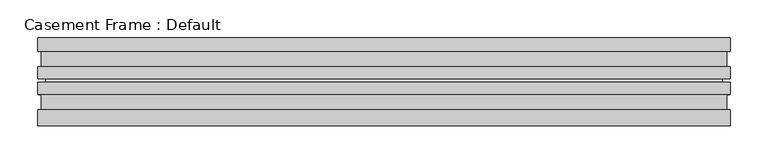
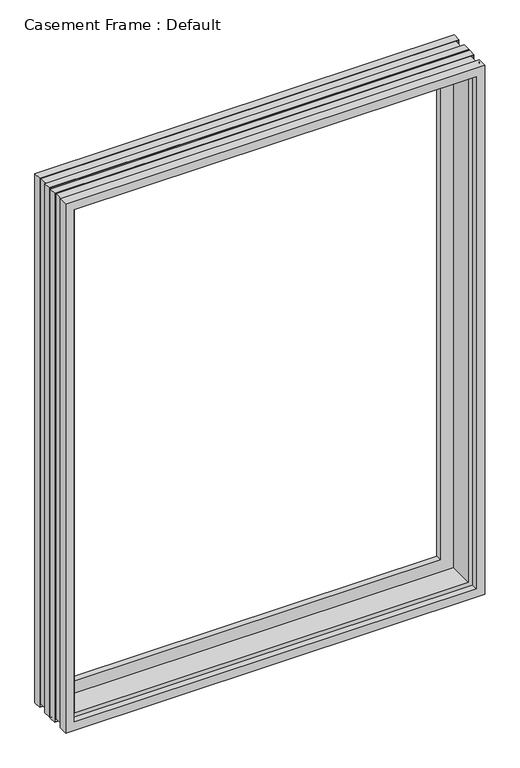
"""IFC4 building model written with IfcOpenShell, lengths in millimetres: proxy geometry, Casement Frame : Default."""

from ifc_helpers import new_model, si_unit, frame, origin, place, context, project, spatial, polyline, ellipse_curve, source, transform, mapped, element, save
from ifc_brep_helpers import plane_surface, revolved_surface, advanced_brep


def casement_frame_default_019ad32e(model_context):
    return source(origin(), model_context, "Body", "AdvancedBrep", [
        advanced_brep(
        [(428.625, 82.55, 790.575), (428.625, 115.8875, 790.575), (-428.625, 115.8875, 790.575), (-428.625, 82.55, 790.575), (400.05, 69.85, 819.15), (400.05, 82.55, 819.15), (-400.05, 82.55, 819.15), (-400.05, 69.85, 819.15), (428.625, 14.2875, 790.575), (428.625, 69.85, 790.575), (-428.625, 69.85, 790.575), (-428.625, 14.2875, 790.575), (-428.625, 115.8875, 1952.625), (-428.625, 82.55, 1952.625), (-400.05, 82.55, 1924.05), (-400.05, 69.85, 1924.05), (-428.625, 69.85, 1952.625), (-428.625, 14.2875, 1952.625), (428.625, 115.8875, 1952.625), (428.625, 82.55, 1952.625), (400.05, 82.55, 1924.05), (400.05, 69.85, 1924.05), (428.625, 69.85, 1952.625), (428.625, 14.2875, 1952.625), (457.2, 0.0, 762.0), (457.2, 0.0, 1981.2), (-457.2, 0.0, 1981.2), (-457.2, 0.0, 762.0), (-438.15, 0.0, 781.05), (-438.15, 0.0, 1962.15), (438.15, 0.0, 1962.15), (438.15, 0.0, 781.05), (-457.2, 115.8875, 762.0), (-457.2, 115.8875, 1981.2), (457.2, 115.8875, 1981.2), (457.2, 115.8875, 762.0), (438.15, 14.2875, 781.05), (-438.15, 14.2875, 781.05), (-438.15, 14.2875, 1962.15), (438.15, 14.2875, 1962.15), (457.2, 20.6375, 762.0), (-457.2, 20.6375, 762.0), (454.421875, 17.4625, 764.778125), (456.009375, 20.6375, 763.190625), (-456.009375, 20.6375, 763.190625), (-454.421875, 17.4625, 764.778125), (452.4375, 44.45, 766.7625), (452.4375, 17.4625, 766.7625), (-452.4375, 17.4625, 766.7625), (-452.4375, 44.45, 766.7625), (456.009375, 41.275, 763.190625), (454.421875, 44.45, 764.778125), (-454.421875, 44.45, 764.778125), (-456.009375, 41.275, 763.190625), (457.2, 57.15, 762.0), (457.2, 41.275, 762.0), (-457.2, 41.275, 762.0), (-457.2, 57.15, 762.0), (455.6125, 61.9125, 763.5875), (455.6125, 57.15, 763.5875), (-455.6125, 57.15, 763.5875), (-455.6125, 61.9125, 763.5875), (457.2, 77.7875, 762.0), (457.2, 61.9125, 762.0), (-457.2, 61.9125, 762.0), (-457.2, 77.7875, 762.0), (454.421875, 74.6125, 764.778125), (456.009375, 77.7875, 763.190625), (-456.009375, 77.7875, 763.190625), (-454.421875, 74.6125, 764.778125), (452.4375, 101.6, 766.7625), (452.4375, 74.6125, 766.7625), (-452.4375, 74.6125, 766.7625), (-452.4375, 101.6, 766.7625), (456.009375, 98.425, 763.190625), (454.421875, 101.6, 764.778125), (-454.421875, 101.6, 764.778125), (-456.009375, 98.425, 763.190625), (457.2, 98.425, 762.0), (-457.2, 98.425, 762.0), (-457.2, 20.6375, 1981.2), (-456.009375, 20.6375, 1980.009375), (-454.421875, 17.4625, 1978.421875), (-452.4375, 17.4625, 1976.4375), (-452.4375, 44.45, 1976.4375), (-454.421875, 44.45, 1978.421875), (-456.009375, 41.275, 1980.009375), (-457.2, 41.275, 1981.2), (-457.2, 57.15, 1981.2), (-455.6125, 57.15, 1979.6125), (-455.6125, 61.9125, 1979.6125), (-457.2, 61.9125, 1981.2), (-457.2, 77.7875, 1981.2), (-456.009375, 77.7875, 1980.009375), (-454.421875, 74.6125, 1978.421875), (-452.4375, 74.6125, 1976.4375), (-452.4375, 101.6, 1976.4375), (-454.421875, 101.6, 1978.421875), (-456.009375, 98.425, 1980.009375), (-457.2, 98.425, 1981.2), (457.2, 20.6375, 1981.2), (456.009375, 20.6375, 1980.009375), (454.421875, 17.4625, 1978.421875), (452.4375, 17.4625, 1976.4375), (452.4375, 44.45, 1976.4375), (454.421875, 44.45, 1978.421875), (456.009375, 41.275, 1980.009375), (457.2, 41.275, 1981.2), (457.2, 57.15, 1981.2), (455.6125, 57.15, 1979.6125), (455.6125, 61.9125, 1979.6125), (457.2, 61.9125, 1981.2), (457.2, 77.7875, 1981.2), (456.009375, 77.7875, 1980.009375), (454.421875, 74.6125, 1978.421875), (452.4375, 74.6125, 1976.4375), (452.4375, 101.6, 1976.4375), (454.421875, 101.6, 1978.421875), (456.009375, 98.425, 1980.009375), (457.2, 98.425, 1981.2)],
        [
            (0, 1),
            (1, 2),
            (2, 3),
            (3, 0),
            (4, 5),
            (5, 6),
            (6, 7),
            (7, 4),
            (8, 9),
            (9, 10),
            (10, 11),
            (11, 8),
            (2, 12),
            (12, 13),
            (13, 3),
            (6, 14),
            (14, 15),
            (15, 7),
            (10, 16),
            (16, 17),
            (17, 11),
            (12, 18),
            (18, 19),
            (19, 13),
            (14, 20),
            (20, 21),
            (21, 15),
            (16, 22),
            (22, 23),
            (23, 17),
            (18, 1),
            (0, 19),
            (5, 20),
            (4, 21),
            (9, 22),
            (8, 23),
            (24, 25),
            (25, 26),
            (26, 27),
            (27, 24),
            (28, 29),
            (29, 30),
            (30, 31),
            (31, 28),
            (32, 33),
            (33, 34),
            (34, 35),
            (35, 32),
            (31, 36),
            (36, 37),
            (37, 28),
            (37, 38),
            (38, 29),
            (38, 39),
            (39, 30),
            (36, 39),
            (40, 24),
            (27, 41),
            (41, 40),
            (42, 43),
            (43, 44),
            (44, 45),
            (45, 42),
            (46, 47),
            (47, 48),
            (48, 49),
            (49, 46),
            (50, 51),
            (51, 52),
            (52, 53),
            (53, 50),
            (54, 55),
            (55, 56),
            (56, 57),
            (57, 54),
            (58, 59, ellipse_curve(frame((451.488054, 59.53125, 767.711946), z_axis=(0.7071067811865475, 0.0, 0.7071067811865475), x_axis=(-0.7071067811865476, 0.0, 0.7071067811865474)), 6.7351921, 4.7625)),
            (59, 60),
            (60, 61, ellipse_curve(frame((-451.488054, 59.53125, 767.711946), z_axis=(-0.7071067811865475, 0.0, 0.7071067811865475), x_axis=(-0.7071067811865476, 0.0, -0.7071067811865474)), 6.7351921, 4.7625)),
            (61, 58),
            (62, 63),
            (63, 64),
            (64, 65),
            (65, 62),
            (66, 67),
            (67, 68),
            (68, 69),
            (69, 66),
            (70, 71),
            (71, 72),
            (72, 73),
            (73, 70),
            (74, 75),
            (75, 76),
            (76, 77),
            (77, 74),
            (35, 78),
            (78, 79),
            (79, 32),
            (26, 80),
            (80, 41),
            (44, 81),
            (81, 82),
            (82, 45),
            (48, 83),
            (83, 84),
            (84, 49),
            (52, 85),
            (85, 86),
            (86, 53),
            (56, 87),
            (87, 88),
            (88, 57),
            (60, 89),
            (89, 90, ellipse_curve(frame((-451.488054, 59.53125, 1975.488054), z_axis=(0.7071067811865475, 0.0, 0.7071067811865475), x_axis=(-0.7071067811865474, 0.0, 0.7071067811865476)), 6.7351921, 4.7625)),
            (90, 61),
            (64, 91),
            (91, 92),
            (92, 65),
            (68, 93),
            (93, 94),
            (94, 69),
            (72, 95),
            (95, 96),
            (96, 73),
            (76, 97),
            (97, 98),
            (98, 77),
            (79, 99),
            (99, 33),
            (25, 100),
            (100, 80),
            (81, 101),
            (101, 102),
            (102, 82),
            (83, 103),
            (103, 104),
            (104, 84),
            (85, 105),
            (105, 106),
            (106, 86),
            (87, 107),
            (107, 108),
            (108, 88),
            (89, 109),
            (109, 110, ellipse_curve(frame((451.488054, 59.53125, 1975.488054), z_axis=(0.7071067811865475, 0.0, -0.7071067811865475), x_axis=(0.7071067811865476, 0.0, 0.7071067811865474)), 6.7351921, 4.7625)),
            (110, 90),
            (91, 111),
            (111, 112),
            (112, 92),
            (93, 113),
            (113, 114),
            (114, 94),
            (95, 115),
            (115, 116),
            (116, 96),
            (97, 117),
            (117, 118),
            (118, 98),
            (99, 119),
            (119, 34),
            (40, 100),
            (43, 101),
            (42, 102),
            (47, 103),
            (46, 104),
            (51, 105),
            (50, 106),
            (55, 107),
            (54, 108),
            (59, 109),
            (58, 110),
            (63, 111),
            (62, 112),
            (67, 113),
            (66, 114),
            (71, 115),
            (70, 116),
            (75, 117),
            (74, 118),
            (78, 119),
        ],
        [
            plane_surface(frame((428.625, 115.8875, 790.575), z_axis=(0.0, 0.0, 1.0), x_axis=(-1.0, 0.0, 0.0))),
            plane_surface(frame((400.05, 82.55, 819.15), z_axis=(0.0, 0.0, 1.0), x_axis=(-1.0, 0.0, 0.0))),
            plane_surface(frame((428.625, 69.85, 790.575), z_axis=(0.0, 0.0, 1.0), x_axis=(-1.0, 0.0, 0.0))),
            plane_surface(frame((-428.625, 115.8875, 790.575), z_axis=(1.0, 0.0, 0.0), x_axis=(0.0, 0.0, 1.0))),
            plane_surface(frame((-400.05, 82.55, 819.15), z_axis=(1.0, 0.0, 0.0), x_axis=(0.0, 0.0, 1.0))),
            plane_surface(frame((-428.625, 69.85, 790.575), z_axis=(1.0, 0.0, 0.0), x_axis=(0.0, 0.0, 1.0))),
            plane_surface(frame((-428.625, 115.8875, 1952.625), z_axis=(0.0, 0.0, -1.0), x_axis=(1.0, 0.0, 0.0))),
            plane_surface(frame((-400.05, 82.55, 1924.05), z_axis=(0.0, 0.0, -1.0), x_axis=(1.0, 0.0, 0.0))),
            plane_surface(frame((-428.625, 69.85, 1952.625), z_axis=(0.0, 0.0, -1.0), x_axis=(1.0, 0.0, 0.0))),
            plane_surface(frame((428.625, 115.8875, 1952.625), z_axis=(-1.0, 0.0, 0.0), x_axis=(0.0, 0.0, -1.0))),
            plane_surface(frame((428.625, 82.55, 1952.625), z_axis=(0.0, 1.0, 0.0), x_axis=(0.0, 0.0, -1.0))),
            plane_surface(frame((400.05, 82.55, 1924.05), z_axis=(-1.0, 0.0, 0.0), x_axis=(0.0, 0.0, -1.0))),
            plane_surface(frame((400.05, 69.85, 1924.05), z_axis=(0.0, -1.0, 0.0), x_axis=(0.0, 0.0, -1.0))),
            plane_surface(frame((428.625, 69.85, 1952.625), z_axis=(-1.0, 0.0, 0.0), x_axis=(0.0, 0.0, -1.0))),
            plane_surface(frame((438.15, 0.0, 1962.15), z_axis=(0.0, -1.0, 0.0), x_axis=(0.0, 0.0, -1.0))),
            plane_surface(frame((457.2, 115.8875, 1981.2), z_axis=(0.0, 1.0, 0.0), x_axis=(0.0, 0.0, -1.0))),
            plane_surface(frame((438.15, 14.2875, 781.05), z_axis=(0.0, 0.0, 1.0), x_axis=(-1.0, 0.0, 0.0))),
            plane_surface(frame((-438.15, 14.2875, 781.05), z_axis=(1.0, 0.0, 0.0), x_axis=(0.0, 0.0, 1.0))),
            plane_surface(frame((-438.15, 14.2875, 1962.15), z_axis=(0.0, 0.0, -1.0), x_axis=(1.0, 0.0, 0.0))),
            plane_surface(frame((428.625, 14.2875, 1952.625), z_axis=(0.0, -1.0, 0.0), x_axis=(0.0, 0.0, -1.0))),
            plane_surface(frame((438.15, 14.2875, 1962.15), z_axis=(-1.0, 0.0, 0.0), x_axis=(0.0, 0.0, -1.0))),
            plane_surface(frame((457.2, 0.0, 762.0), z_axis=(0.0, 0.0, -1.0), x_axis=(-1.0, 0.0, 0.0))),
            plane_surface(frame((456.009375, 20.6375, 763.190625), z_axis=(0.0, 0.44721359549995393, 0.894427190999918), x_axis=(-1.0, 0.0, 0.0))),
            plane_surface(frame((452.4375, 17.4625, 766.7625), z_axis=(0.0, 0.0, -1.0), x_axis=(-1.0, 0.0, 0.0))),
            plane_surface(frame((454.421875, 44.45, 764.778125), z_axis=(0.0, -0.44721359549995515, 0.8944271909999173), x_axis=(-1.0, 0.0, 0.0))),
            plane_surface(frame((457.2, 41.275, 762.0), z_axis=(0.0, 0.0, -1.0), x_axis=(-1.0, 0.0, 0.0))),
            revolved_surface(polyline([(-456.25055400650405, 54.76875, 767.711946), (456.25055400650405, 54.76875, 767.711946)]), (457.2, 59.53125, 767.711946), (-1.0, 0.0, 0.0)),
            plane_surface(frame((457.2, 61.9125, 762.0), z_axis=(0.0, 0.0, -1.0), x_axis=(-1.0, 0.0, 0.0))),
            plane_surface(frame((456.009375, 77.7875, 763.190625), z_axis=(0.0, 0.44721359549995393, 0.894427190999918), x_axis=(-1.0, 0.0, 0.0))),
            plane_surface(frame((452.4375, 74.6125, 766.7625), z_axis=(0.0, 0.0, -1.0), x_axis=(-1.0, 0.0, 0.0))),
            plane_surface(frame((454.421875, 101.6, 764.778125), z_axis=(0.0, -0.44721359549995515, 0.8944271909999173), x_axis=(-1.0, 0.0, 0.0))),
            plane_surface(frame((457.2, 98.425, 762.0), z_axis=(0.0, 0.0, -1.0), x_axis=(-1.0, 0.0, 0.0))),
            plane_surface(frame((-457.2, 0.0, 762.0), z_axis=(-1.0, 0.0, 0.0), x_axis=(0.0, 0.0, 1.0))),
            plane_surface(frame((-456.009375, 20.6375, 763.190625), z_axis=(0.8944271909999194, 0.44721359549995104, 0.0), x_axis=(0.0, 0.0, 1.0))),
            plane_surface(frame((-452.4375, 17.4625, 766.7625), z_axis=(-1.0, 0.0, 0.0), x_axis=(0.0, 0.0, 1.0))),
            plane_surface(frame((-454.421875, 44.45, 764.778125), z_axis=(0.8944271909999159, -0.44721359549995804, 0.0), x_axis=(0.0, 0.0, 1.0))),
            plane_surface(frame((-457.2, 41.275, 762.0), z_axis=(-1.0, 0.0, 0.0), x_axis=(0.0, 0.0, 1.0))),
            revolved_surface(polyline([(-451.488054, 54.76875, 1980.250554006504), (-451.488054, 54.76875, 762.9494459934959)]), (-451.488054, 59.53125, 762.0), (0.0, 0.0, 1.0)),
            plane_surface(frame((-457.2, 61.9125, 762.0), z_axis=(-1.0, 0.0, 0.0), x_axis=(0.0, 0.0, 1.0))),
            plane_surface(frame((-456.009375, 77.7875, 763.190625), z_axis=(0.8944271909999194, 0.44721359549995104, 0.0), x_axis=(0.0, 0.0, 1.0))),
            plane_surface(frame((-452.4375, 74.6125, 766.7625), z_axis=(-1.0, 0.0, 0.0), x_axis=(0.0, 0.0, 1.0))),
            plane_surface(frame((-454.421875, 101.6, 764.778125), z_axis=(0.8944271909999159, -0.44721359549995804, 0.0), x_axis=(0.0, 0.0, 1.0))),
            plane_surface(frame((-457.2, 98.425, 762.0), z_axis=(-1.0, 0.0, 0.0), x_axis=(0.0, 0.0, 1.0))),
            plane_surface(frame((-457.2, 0.0, 1981.2), z_axis=(0.0, 0.0, 1.0), x_axis=(1.0, 0.0, 0.0))),
            plane_surface(frame((-456.009375, 20.6375, 1980.009375), z_axis=(0.0, 0.44721359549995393, -0.894427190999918), x_axis=(1.0, 0.0, 0.0))),
            plane_surface(frame((-452.4375, 17.4625, 1976.4375), z_axis=(0.0, 0.0, 1.0), x_axis=(1.0, 0.0, 0.0))),
            plane_surface(frame((-454.421875, 44.45, 1978.421875), z_axis=(0.0, -0.44721359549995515, -0.8944271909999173), x_axis=(1.0, 0.0, 0.0))),
            plane_surface(frame((-457.2, 41.275, 1981.2), z_axis=(0.0, 0.0, 1.0), x_axis=(1.0, 0.0, 0.0))),
            revolved_surface(polyline([(456.25055400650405, 54.76875, 1975.488054), (-456.25055400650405, 54.76875, 1975.488054)]), (-457.2, 59.53125, 1975.488054), (1.0, 0.0, 0.0)),
            plane_surface(frame((-457.2, 61.9125, 1981.2), z_axis=(0.0, 0.0, 1.0), x_axis=(1.0, 0.0, 0.0))),
            plane_surface(frame((-456.009375, 77.7875, 1980.009375), z_axis=(0.0, 0.44721359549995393, -0.894427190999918), x_axis=(1.0, 0.0, 0.0))),
            plane_surface(frame((-452.4375, 74.6125, 1976.4375), z_axis=(0.0, 0.0, 1.0), x_axis=(1.0, 0.0, 0.0))),
            plane_surface(frame((-454.421875, 101.6, 1978.421875), z_axis=(0.0, -0.44721359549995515, -0.8944271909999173), x_axis=(1.0, 0.0, 0.0))),
            plane_surface(frame((-457.2, 98.425, 1981.2), z_axis=(0.0, 0.0, 1.0), x_axis=(1.0, 0.0, 0.0))),
            plane_surface(frame((457.2, 0.0, 1981.2), z_axis=(1.0, 0.0, 0.0), x_axis=(0.0, 0.0, -1.0))),
            plane_surface(frame((457.2, 20.6375, 1981.2), z_axis=(0.0, 1.0, 0.0), x_axis=(0.0, 0.0, -1.0))),
            plane_surface(frame((456.009375, 20.6375, 1980.009375), z_axis=(-0.8944271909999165, 0.4472135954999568, 0.0), x_axis=(0.0, 0.0, -1.0))),
            plane_surface(frame((454.421875, 17.4625, 1978.421875), z_axis=(0.0, 1.0, 0.0), x_axis=(0.0, 0.0, -1.0))),
            plane_surface(frame((452.4375, 17.4625, 1976.4375), z_axis=(1.0, 0.0, 0.0), x_axis=(0.0, 0.0, -1.0))),
            plane_surface(frame((452.4375, 44.45, 1976.4375), z_axis=(0.0, -1.0, 0.0), x_axis=(0.0, 0.0, -1.0))),
            plane_surface(frame((454.421875, 44.45, 1978.421875), z_axis=(-0.8944271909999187, -0.44721359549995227, 0.0), x_axis=(0.0, 0.0, -1.0))),
            plane_surface(frame((456.009375, 41.275, 1980.009375), z_axis=(0.0, -1.0, 0.0), x_axis=(0.0, 0.0, -1.0))),
            plane_surface(frame((457.2, 41.275, 1981.2), z_axis=(1.0, 0.0, 0.0), x_axis=(0.0, 0.0, -1.0))),
            plane_surface(frame((457.2, 57.15, 1981.2), z_axis=(0.0, 1.0, 0.0), x_axis=(0.0, 0.0, -1.0))),
            revolved_surface(polyline([(451.488054, 54.76875, 762.949445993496), (451.488054, 54.76875, 1980.250554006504)]), (451.488054, 59.53125, 1981.2), (0.0, 0.0, -1.0)),
            plane_surface(frame((455.6125, 61.9125, 1979.6125), z_axis=(0.0, -1.0, 0.0), x_axis=(0.0, 0.0, -1.0))),
            plane_surface(frame((457.2, 61.9125, 1981.2), z_axis=(1.0, 0.0, 0.0), x_axis=(0.0, 0.0, -1.0))),
            plane_surface(frame((457.2, 77.7875, 1981.2), z_axis=(0.0, 1.0, 0.0), x_axis=(0.0, 0.0, -1.0))),
            plane_surface(frame((456.009375, 77.7875, 1980.009375), z_axis=(-0.8944271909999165, 0.4472135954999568, 0.0), x_axis=(0.0, 0.0, -1.0))),
            plane_surface(frame((454.421875, 74.6125, 1978.421875), z_axis=(0.0, 1.0, 0.0), x_axis=(0.0, 0.0, -1.0))),
            plane_surface(frame((452.4375, 74.6125, 1976.4375), z_axis=(1.0, 0.0, 0.0), x_axis=(0.0, 0.0, -1.0))),
            plane_surface(frame((452.4375, 101.6, 1976.4375), z_axis=(0.0, -1.0, 0.0), x_axis=(0.0, 0.0, -1.0))),
            plane_surface(frame((454.421875, 101.6, 1978.421875), z_axis=(-0.8944271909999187, -0.44721359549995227, 0.0), x_axis=(0.0, 0.0, -1.0))),
            plane_surface(frame((456.009375, 98.425, 1980.009375), z_axis=(0.0, -1.0, 0.0), x_axis=(0.0, 0.0, -1.0))),
            plane_surface(frame((457.2, 98.425, 1981.2), z_axis=(1.0, 0.0, 0.0), x_axis=(0.0, 0.0, -1.0))),
        ],
        [
            (0, [[1, 2, 3, 4]]),
            (1, [[5, 6, 7, 8]]),
            (2, [[9, 10, 11, 12]]),
            (3, [[-3, 13, 14, 15]]),
            (4, [[-7, 16, 17, 18]]),
            (5, [[-11, 19, 20, 21]]),
            (6, [[-14, 22, 23, 24]]),
            (7, [[-17, 25, 26, 27]]),
            (8, [[-20, 28, 29, 30]]),
            (9, [[-23, 31, -1, 32]]),
            (10, [[-15, -24, -32, -4], [33, -25, -16, -6]]),
            (11, [[-26, -33, -5, 34]]),
            (12, [[35, -28, -19, -10], [-18, -27, -34, -8]]),
            (13, [[-29, -35, -9, 36]]),
            (14, [[37, 38, 39, 40], [41, 42, 43, 44]]),
            (15, [[45, 46, 47, 48], [-31, -22, -13, -2]]),
            (16, [[49, 50, 51, -44]]),
            (17, [[-51, 52, 53, -41]]),
            (18, [[-53, 54, 55, -42]]),
            (19, [[56, -54, -52, -50], [-21, -30, -36, -12]]),
            (20, [[-55, -56, -49, -43]]),
            (21, [[57, -40, 58, 59]]),
            (22, [[60, 61, 62, 63]]),
            (23, [[64, 65, 66, 67]]),
            (24, [[68, 69, 70, 71]]),
            (25, [[72, 73, 74, 75]]),
            (26, [[76, 77, 78, 79]]),
            (27, [[80, 81, 82, 83]]),
            (28, [[84, 85, 86, 87]]),
            (29, [[88, 89, 90, 91]]),
            (30, [[92, 93, 94, 95]]),
            (31, [[96, 97, 98, -48]]),
            (32, [[-58, -39, 99, 100]]),
            (33, [[-62, 101, 102, 103]]),
            (34, [[-66, 104, 105, 106]]),
            (35, [[-70, 107, 108, 109]]),
            (36, [[-74, 110, 111, 112]]),
            (37, [[-78, 113, 114, 115]]),
            (38, [[-82, 116, 117, 118]]),
            (39, [[-86, 119, 120, 121]]),
            (40, [[-90, 122, 123, 124]]),
            (41, [[-94, 125, 126, 127]]),
            (42, [[-98, 128, 129, -45]]),
            (43, [[-99, -38, 130, 131]]),
            (44, [[-102, 132, 133, 134]]),
            (45, [[-105, 135, 136, 137]]),
            (46, [[-108, 138, 139, 140]]),
            (47, [[-111, 141, 142, 143]]),
            (48, [[-114, 144, 145, 146]]),
            (49, [[-117, 147, 148, 149]]),
            (50, [[-120, 150, 151, 152]]),
            (51, [[-123, 153, 154, 155]]),
            (52, [[-126, 156, 157, 158]]),
            (53, [[-129, 159, 160, -46]]),
            (54, [[-130, -37, -57, 161]]),
            (55, [[-100, -131, -161, -59], [162, -132, -101, -61]]),
            (56, [[-133, -162, -60, 163]]),
            (57, [[-103, -134, -163, -63], [164, -135, -104, -65]]),
            (58, [[-136, -164, -64, 165]]),
            (59, [[166, -138, -107, -69], [-106, -137, -165, -67]]),
            (60, [[-139, -166, -68, 167]]),
            (61, [[168, -141, -110, -73], [-109, -140, -167, -71]]),
            (62, [[-142, -168, -72, 169]]),
            (63, [[-112, -143, -169, -75], [170, -144, -113, -77]]),
            (64, [[-145, -170, -76, 171]]),
            (65, [[172, -147, -116, -81], [-115, -146, -171, -79]]),
            (66, [[-148, -172, -80, 173]]),
            (67, [[-118, -149, -173, -83], [174, -150, -119, -85]]),
            (68, [[-151, -174, -84, 175]]),
            (69, [[-121, -152, -175, -87], [176, -153, -122, -89]]),
            (70, [[-154, -176, -88, 177]]),
            (71, [[178, -156, -125, -93], [-124, -155, -177, -91]]),
            (72, [[-157, -178, -92, 179]]),
            (73, [[180, -159, -128, -97], [-127, -158, -179, -95]]),
            (74, [[-160, -180, -96, -47]]),
        ],
    ),
    ])


if __name__ == "__main__":
    model = new_model("IFC4")
    model_context = context("Model", 3, world=origin())
    ifc_project = project(units=[si_unit("LENGTHUNIT", "METRE", prefix="MILLI")], contexts=[model_context])
    site = spatial("IfcSite", under=ifc_project)
    building = spatial("IfcBuilding", under=site)
    placement = place(None, origin())
    casement_frame_default_shape = casement_frame_default_019ad32e(model_context)
    element("IfcBuildingElementProxy", 1, Name="Casement Frame : Default", ObjectType="Casement Frame : Default", at=placement, inside=building, context=model_context, shape_type="MappedRepresentation", body=[
        mapped(casement_frame_default_shape, transform((0.0, 0.0, 0.0), x_axis=(1.0, 0.0, 0.0), y_axis=(0.0, 1.0, 0.0), z_axis=(0.0, 0.0, 1.0))),
    ])
    save(model, "model.ifc")
